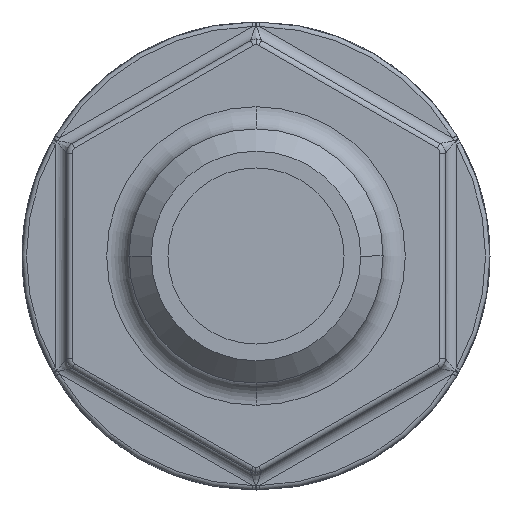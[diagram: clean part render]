
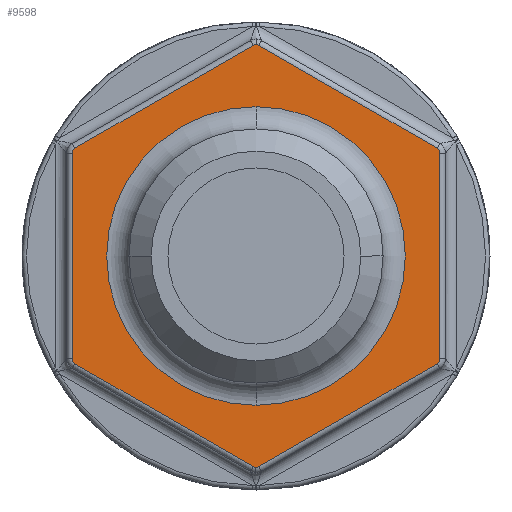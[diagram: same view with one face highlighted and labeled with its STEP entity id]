
A CAD part, front view. The second image highlights one B-rep face of the part: STEP entity #9598.
In plain terms, the highlighted planar face has unit normal (0, -1, 0).
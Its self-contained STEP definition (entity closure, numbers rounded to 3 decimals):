
#2 = AXIS2_PLACEMENT_3D ( 'NONE', #17937, #8266, #14889 ) ;
#461 = VERTEX_POINT ( 'NONE', #5588 ) ;
#565 = DIRECTION ( 'NONE',  ( 0., -1., 0. ) ) ;
#648 = DIRECTION ( 'NONE',  ( 0., 0., -1. ) ) ;
#675 = ORIENTED_EDGE ( 'NONE', *, *, #14516, .T. ) ;
#699 = DIRECTION ( 'NONE',  ( 0., 0., -1. ) ) ;
#839 = VERTEX_POINT ( 'NONE', #2917 ) ;
#882 = DIRECTION ( 'NONE',  ( 0., 0., -1. ) ) ;
#1462 = EDGE_CURVE ( 'NONE', #14180, #12474, #3108, .T. ) ;
#2096 = VERTEX_POINT ( 'NONE', #11113 ) ;
#2176 = CARTESIAN_POINT ( 'NONE',  ( -8., 10., 4.619 ) ) ;
#2277 = AXIS2_PLACEMENT_3D ( 'NONE', #4849, #6550, #8091 ) ;
#2305 = CIRCLE ( 'NONE', #2277, 6.7 ) ;
#2405 = VERTEX_POINT ( 'NONE', #20274 ) ;
#2532 = CARTESIAN_POINT ( 'NONE',  ( 0., 10., -9.238 ) ) ;
#2553 = AXIS2_PLACEMENT_3D ( 'NONE', #3776, #15000, #18243 ) ;
#2656 = FACE_BOUND ( 'NONE', #3397, .T. ) ;
#2722 = AXIS2_PLACEMENT_3D ( 'NONE', #2532, #3915, #10395 ) ;
#2816 = CARTESIAN_POINT ( 'NONE',  ( -8.125, 10., 4.835 ) ) ;
#2917 = CARTESIAN_POINT ( 'NONE',  ( 0.125, 10., -9.454 ) ) ;
#2993 = CARTESIAN_POINT ( 'NONE',  ( 8.25, 10., -4.619 ) ) ;
#3108 = LINE ( 'NONE', #14346, #18046 ) ;
#3397 = EDGE_LOOP ( 'NONE', ( #17341, #675 ) ) ;
#3540 = CIRCLE ( 'NONE', #3869, 0.25 ) ;
#3766 = DIRECTION ( 'NONE',  ( 0., -1., 0. ) ) ;
#3776 = CARTESIAN_POINT ( 'NONE',  ( 0., 10., 9.238 ) ) ;
#3853 = DIRECTION ( 'NONE',  ( 0., -1., 0. ) ) ;
#3869 = AXIS2_PLACEMENT_3D ( 'NONE', #10991, #15882, #12820 ) ;
#3915 = DIRECTION ( 'NONE',  ( 0., -1., 0. ) ) ;
#4010 = LINE ( 'NONE', #18296, #12086 ) ;
#4058 = CARTESIAN_POINT ( 'NONE',  ( 0., 10., -6.7 ) ) ;
#4332 = VECTOR ( 'NONE', #12590, 1000. ) ;
#4333 = EDGE_LOOP ( 'NONE', ( #18293, #10795, #20331, #4945, #17643, #5242, #5889, #16373, #5639, #5451, #6454, #14078, #16651, #8942 ) ) ;
#4365 = VERTEX_POINT ( 'NONE', #4728 ) ;
#4505 = CIRCLE ( 'NONE', #2, 6.7 ) ;
#4583 = VECTOR ( 'NONE', #17954, 1000. ) ;
#4682 = CIRCLE ( 'NONE', #7680, 0.25 ) ;
#4728 = CARTESIAN_POINT ( 'NONE',  ( 0., 10., -9.488 ) ) ;
#4849 = CARTESIAN_POINT ( 'NONE',  ( 0., 10., 0. ) ) ;
#4945 = ORIENTED_EDGE ( 'NONE', *, *, #11360, .T. ) ;
#4969 = DIRECTION ( 'NONE',  ( 0., -1., 0. ) ) ;
#5242 = ORIENTED_EDGE ( 'NONE', *, *, #5274, .T. ) ;
#5274 = EDGE_CURVE ( 'NONE', #9670, #14180, #6586, .T. ) ;
#5451 = ORIENTED_EDGE ( 'NONE', *, *, #17178, .T. ) ;
#5460 = CIRCLE ( 'NONE', #8226, 0.25 ) ;
#5588 = CARTESIAN_POINT ( 'NONE',  ( 8.125, 10., -4.835 ) ) ;
#5639 = ORIENTED_EDGE ( 'NONE', *, *, #12454, .T. ) ;
#5889 = ORIENTED_EDGE ( 'NONE', *, *, #1462, .T. ) ;
#6311 = DIRECTION ( 'NONE',  ( -0.866, 0., 0.5 ) ) ;
#6454 = ORIENTED_EDGE ( 'NONE', *, *, #6478, .T. ) ;
#6478 = EDGE_CURVE ( 'NONE', #2405, #16277, #8099, .T. ) ;
#6550 = DIRECTION ( 'NONE',  ( 0., 1., 0. ) ) ;
#6586 = CIRCLE ( 'NONE', #16498, 0.25 ) ;
#7019 = CIRCLE ( 'NONE', #15643, 0.25 ) ;
#7625 = VERTEX_POINT ( 'NONE', #12369 ) ;
#7680 = AXIS2_PLACEMENT_3D ( 'NONE', #17536, #12851, #14262 ) ;
#7740 = CARTESIAN_POINT ( 'NONE',  ( 8.125, 10., -4.835 ) ) ;
#7920 = CARTESIAN_POINT ( 'NONE',  ( 0.125, 10., 9.454 ) ) ;
#7958 = EDGE_CURVE ( 'NONE', #18360, #9670, #4010, .T. ) ;
#8091 = DIRECTION ( 'NONE',  ( 0., 0., -1. ) ) ;
#8099 = CIRCLE ( 'NONE', #10404, 0.25 ) ;
#8122 = CIRCLE ( 'NONE', #2722, 0.25 ) ;
#8226 = AXIS2_PLACEMENT_3D ( 'NONE', #12069, #13674, #882 ) ;
#8266 = DIRECTION ( 'NONE',  ( 0., 1., 0. ) ) ;
#8294 = CARTESIAN_POINT ( 'NONE',  ( -10.5, 10., 0. ) ) ;
#8431 = EDGE_CURVE ( 'NONE', #20535, #16485, #4505, .T. ) ;
#8466 = CARTESIAN_POINT ( 'NONE',  ( 0., 10., 6.7 ) ) ;
#8522 = CARTESIAN_POINT ( 'NONE',  ( -8.25, 10., -4.619 ) ) ;
#8629 = LINE ( 'NONE', #2816, #4332 ) ;
#8732 = VERTEX_POINT ( 'NONE', #19036 ) ;
#8751 = EDGE_CURVE ( 'NONE', #839, #461, #14335, .T. ) ;
#8806 = CARTESIAN_POINT ( 'NONE',  ( 8., 10., 4.619 ) ) ;
#8941 = EDGE_CURVE ( 'NONE', #16277, #7625, #13323, .T. ) ;
#8942 = ORIENTED_EDGE ( 'NONE', *, *, #17328, .T. ) ;
#8959 = EDGE_CURVE ( 'NONE', #12474, #10195, #20163, .T. ) ;
#9148 = CARTESIAN_POINT ( 'NONE',  ( 8.125, 10., 4.835 ) ) ;
#9270 = EDGE_CURVE ( 'NONE', #8732, #4365, #7019, .T. ) ;
#9598 = ADVANCED_FACE ( 'NONE', ( #12787, #2656 ), #14637, .T. ) ;
#9670 = VERTEX_POINT ( 'NONE', #19937 ) ;
#9995 = VERTEX_POINT ( 'NONE', #14827 ) ;
#10195 = VERTEX_POINT ( 'NONE', #16823 ) ;
#10272 = CARTESIAN_POINT ( 'NONE',  ( 0., 10., -9.238 ) ) ;
#10395 = DIRECTION ( 'NONE',  ( 0., 0., -1. ) ) ;
#10404 = AXIS2_PLACEMENT_3D ( 'NONE', #2176, #3766, #699 ) ;
#10795 = ORIENTED_EDGE ( 'NONE', *, *, #17054, .T. ) ;
#10991 = CARTESIAN_POINT ( 'NONE',  ( -8., 10., -4.619 ) ) ;
#11113 = CARTESIAN_POINT ( 'NONE',  ( -0.125, 10., 9.454 ) ) ;
#11299 = VECTOR ( 'NONE', #13368, 1000. ) ;
#11360 = EDGE_CURVE ( 'NONE', #461, #18360, #5460, .T. ) ;
#11377 = CARTESIAN_POINT ( 'NONE',  ( -0.125, 10., -9.454 ) ) ;
#12069 = CARTESIAN_POINT ( 'NONE',  ( 8., 10., -4.619 ) ) ;
#12086 = VECTOR ( 'NONE', #13282, 1000. ) ;
#12369 = CARTESIAN_POINT ( 'NONE',  ( -8.25, 10., -4.619 ) ) ;
#12454 = EDGE_CURVE ( 'NONE', #10195, #2096, #4682, .T. ) ;
#12474 = VERTEX_POINT ( 'NONE', #7920 ) ;
#12590 = DIRECTION ( 'NONE',  ( -0.866, 0., -0.5 ) ) ;
#12787 = FACE_OUTER_BOUND ( 'NONE', #4333, .T. ) ;
#12820 = DIRECTION ( 'NONE',  ( 0., 0., -1. ) ) ;
#12851 = DIRECTION ( 'NONE',  ( 0., -1., 0. ) ) ;
#13282 = DIRECTION ( 'NONE',  ( 0., 0., 1. ) ) ;
#13323 = LINE ( 'NONE', #8522, #11299 ) ;
#13368 = DIRECTION ( 'NONE',  ( 0., 0., -1. ) ) ;
#13674 = DIRECTION ( 'NONE',  ( 0., -1., 0. ) ) ;
#14078 = ORIENTED_EDGE ( 'NONE', *, *, #8941, .T. ) ;
#14180 = VERTEX_POINT ( 'NONE', #9148 ) ;
#14262 = DIRECTION ( 'NONE',  ( 0., 0., -1. ) ) ;
#14335 = LINE ( 'NONE', #7740, #17145 ) ;
#14346 = CARTESIAN_POINT ( 'NONE',  ( 0.125, 10., 9.454 ) ) ;
#14516 = EDGE_CURVE ( 'NONE', #16485, #20535, #2305, .T. ) ;
#14637 = PLANE ( 'NONE',  #18618 ) ;
#14827 = CARTESIAN_POINT ( 'NONE',  ( -8.125, 10., -4.835 ) ) ;
#14889 = DIRECTION ( 'NONE',  ( 0., 0., -1. ) ) ;
#15000 = DIRECTION ( 'NONE',  ( 0., -1., 0. ) ) ;
#15643 = AXIS2_PLACEMENT_3D ( 'NONE', #10272, #565, #648 ) ;
#15882 = DIRECTION ( 'NONE',  ( 0., -1., 0. ) ) ;
#16277 = VERTEX_POINT ( 'NONE', #17519 ) ;
#16373 = ORIENTED_EDGE ( 'NONE', *, *, #8959, .T. ) ;
#16485 = VERTEX_POINT ( 'NONE', #8466 ) ;
#16498 = AXIS2_PLACEMENT_3D ( 'NONE', #8806, #3853, #18265 ) ;
#16651 = ORIENTED_EDGE ( 'NONE', *, *, #18394, .T. ) ;
#16823 = CARTESIAN_POINT ( 'NONE',  ( 0., 10., 9.488 ) ) ;
#17054 = EDGE_CURVE ( 'NONE', #4365, #839, #8122, .T. ) ;
#17145 = VECTOR ( 'NONE', #20438, 1000. ) ;
#17178 = EDGE_CURVE ( 'NONE', #2096, #2405, #8629, .T. ) ;
#17328 = EDGE_CURVE ( 'NONE', #9995, #8732, #19738, .T. ) ;
#17341 = ORIENTED_EDGE ( 'NONE', *, *, #8431, .T. ) ;
#17519 = CARTESIAN_POINT ( 'NONE',  ( -8.25, 10., 4.619 ) ) ;
#17536 = CARTESIAN_POINT ( 'NONE',  ( 0., 10., 9.238 ) ) ;
#17643 = ORIENTED_EDGE ( 'NONE', *, *, #7958, .T. ) ;
#17937 = CARTESIAN_POINT ( 'NONE',  ( 0., 10., 0. ) ) ;
#17954 = DIRECTION ( 'NONE',  ( 0.866, 0., -0.5 ) ) ;
#18046 = VECTOR ( 'NONE', #6311, 1000. ) ;
#18243 = DIRECTION ( 'NONE',  ( 0., 0., -1. ) ) ;
#18265 = DIRECTION ( 'NONE',  ( 0., 0., -1. ) ) ;
#18293 = ORIENTED_EDGE ( 'NONE', *, *, #9270, .T. ) ;
#18296 = CARTESIAN_POINT ( 'NONE',  ( 8.25, 10., 4.619 ) ) ;
#18360 = VERTEX_POINT ( 'NONE', #2993 ) ;
#18394 = EDGE_CURVE ( 'NONE', #7625, #9995, #3540, .T. ) ;
#18618 = AXIS2_PLACEMENT_3D ( 'NONE', #8294, #4969, #19507 ) ;
#19036 = CARTESIAN_POINT ( 'NONE',  ( -0.125, 10., -9.454 ) ) ;
#19507 = DIRECTION ( 'NONE',  ( 0., 0., -1. ) ) ;
#19738 = LINE ( 'NONE', #11377, #4583 ) ;
#19937 = CARTESIAN_POINT ( 'NONE',  ( 8.25, 10., 4.619 ) ) ;
#20163 = CIRCLE ( 'NONE', #2553, 0.25 ) ;
#20274 = CARTESIAN_POINT ( 'NONE',  ( -8.125, 10., 4.835 ) ) ;
#20331 = ORIENTED_EDGE ( 'NONE', *, *, #8751, .T. ) ;
#20438 = DIRECTION ( 'NONE',  ( 0.866, 0., 0.5 ) ) ;
#20535 = VERTEX_POINT ( 'NONE', #4058 ) ;
